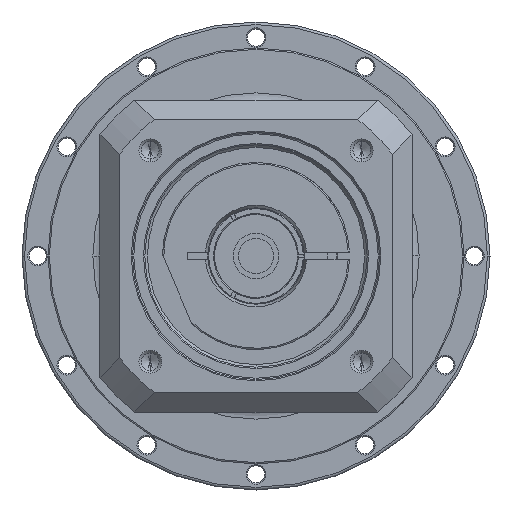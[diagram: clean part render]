
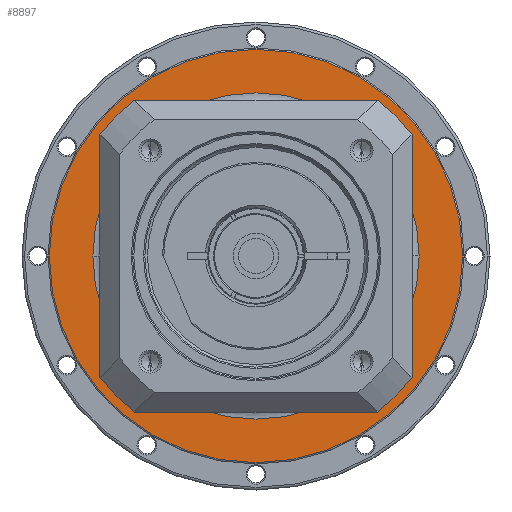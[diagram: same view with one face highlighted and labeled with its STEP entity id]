
A CAD part, left-side view. The second image highlights one B-rep face of the part: STEP entity #8897.
In plain terms, the highlighted planar face has unit normal (-1, 0, 0) as drawn and (1, 0, 0) by its records, which use the part's own axes.
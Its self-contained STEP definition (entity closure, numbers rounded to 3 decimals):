
#7928=CARTESIAN_POINT('',(-21.5,0.,0.));
#7929=DIRECTION('',(-1.,0.,0.));
#7930=DIRECTION('',(0.,-1.,0.));
#7931=AXIS2_PLACEMENT_3D('',#7928,#7929,#7930);
#7933=CARTESIAN_POINT('',(-21.5,0.,0.));
#7934=DIRECTION('',(-1.,0.,0.));
#7935=DIRECTION('',(0.,1.,0.));
#7936=AXIS2_PLACEMENT_3D('',#7933,#7934,#7935);
#7938=CARTESIAN_POINT('',(-21.5,0.,0.));
#7939=DIRECTION('',(-1.,0.,0.));
#7940=DIRECTION('',(0.,-1.,0.));
#7941=AXIS2_PLACEMENT_3D('',#7938,#7939,#7940);
#7943=CARTESIAN_POINT('',(-21.5,0.,0.));
#7944=DIRECTION('',(-1.,0.,0.));
#7945=DIRECTION('',(0.,1.,0.));
#7946=AXIS2_PLACEMENT_3D('',#7943,#7944,#7945);
#8190=CARTESIAN_POINT('',(-21.5,-79.5,0.));
#8191=CARTESIAN_POINT('',(-21.5,79.5,0.));
#8192=VERTEX_POINT('',#8190);
#8193=VERTEX_POINT('',#8191);
#8248=CARTESIAN_POINT('',(-21.5,-62.75,0.));
#8249=CARTESIAN_POINT('',(-21.5,62.75,0.));
#8250=VERTEX_POINT('',#8248);
#8251=VERTEX_POINT('',#8249);
#8882=CARTESIAN_POINT('',(-21.5,0.,0.));
#8883=DIRECTION('',(1.,0.,0.));
#8884=DIRECTION('',(0.,-1.,0.));
#8885=AXIS2_PLACEMENT_3D('',#8882,#8883,#8884);
#8886=PLANE('',#8885);
#8887=ORIENTED_EDGE('',*,*,#8838,.T.);
#8888=ORIENTED_EDGE('',*,*,#8823,.T.);
#8889=EDGE_LOOP('',(#8887,#8888));
#8890=FACE_OUTER_BOUND('',#8889,.F.);
#8892=ORIENTED_EDGE('',*,*,#8891,.F.);
#8894=ORIENTED_EDGE('',*,*,#8893,.F.);
#8895=EDGE_LOOP('',(#8892,#8894));
#8896=FACE_BOUND('',#8895,.F.);
#8897=ADVANCED_FACE('',(#8890,#8896),#8886,.T.);
#7932=CIRCLE('',#7931,62.75);
#7937=CIRCLE('',#7936,62.75);
#7942=CIRCLE('',#7941,79.5);
#7947=CIRCLE('',#7946,79.5);
#8823=EDGE_CURVE('',#8193,#8192,#7947,.T.);
#8838=EDGE_CURVE('',#8192,#8193,#7942,.T.);
#8891=EDGE_CURVE('',#8250,#8251,#7932,.T.);
#8893=EDGE_CURVE('',#8251,#8250,#7937,.T.);
